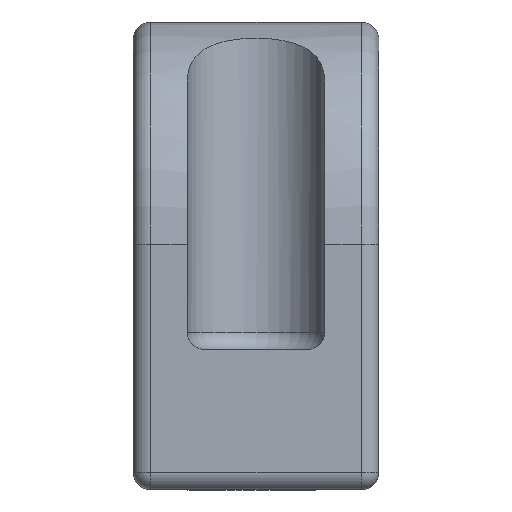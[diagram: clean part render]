
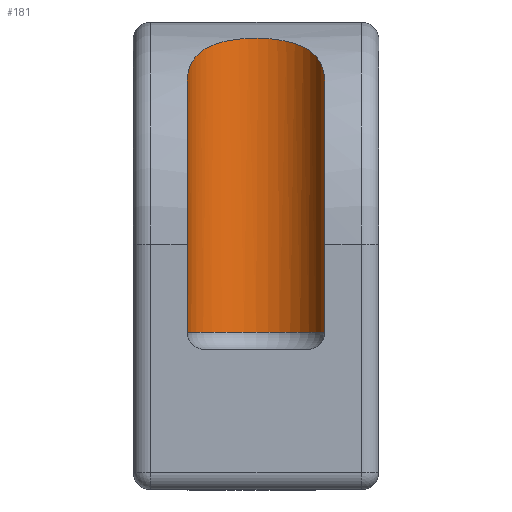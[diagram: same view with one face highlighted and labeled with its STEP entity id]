
A CAD part, left-side view. The second image highlights one B-rep face of the part: STEP entity #181.
In plain terms, the highlighted cylindrical face has radius 11.75 mm (diameter 23.5 mm), a partial arc.
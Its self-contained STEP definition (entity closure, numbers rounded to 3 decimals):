
#105=CARTESIAN_POINT('',(0.,-11.75,69.713));
#106=VERTEX_POINT('',#105);
#114=CARTESIAN_POINT('',(0.,-11.75,27.));
#115=VERTEX_POINT('',#114);
#116=CARTESIAN_POINT('',(0.,-11.75,27.));
#117=DIRECTION('',(0.,0.,1.));
#118=VECTOR('',#117,42.713);
#119=LINE('',#116,#118);
#120=EDGE_CURVE('',#115,#106,#119,.T.);
#139=CARTESIAN_POINT('',(0.,0.,24.));
#140=DIRECTION('',(0.,1.,0.));
#141=DIRECTION('',(0.,0.,1.));
#142=AXIS2_PLACEMENT_3D('',#139,#141,#140);
#143=CYLINDRICAL_SURFACE('',#142,11.75);
#144=CARTESIAN_POINT('',(0.,11.75,69.713));
#145=VERTEX_POINT('',#144);
#146=CARTESIAN_POINT('',(0.,-11.75,69.713));
#147=CARTESIAN_POINT('',(0.98,-11.75,70.632));
#148=CARTESIAN_POINT('',(4.064,-11.383,73.233));
#149=CARTESIAN_POINT('',(7.246,-9.606,75.103));
#150=CARTESIAN_POINT('',(10.496,-5.806,76.738));
#151=CARTESIAN_POINT('',(11.512,-3.463,77.13));
#152=CARTESIAN_POINT('',(11.917,1.633,77.295));
#153=CARTESIAN_POINT('',(11.264,4.173,77.057));
#154=CARTESIAN_POINT('',(8.327,8.816,75.687));
#155=CARTESIAN_POINT('',(5.986,10.42,74.439));
#156=CARTESIAN_POINT('',(2.767,11.452,72.088));
#157=CARTESIAN_POINT('',(1.548,11.694,71.121));
#158=CARTESIAN_POINT('',(0.382,11.75,70.071));
#159=CARTESIAN_POINT('',(0.,11.75,69.713));
#160=B_SPLINE_CURVE_WITH_KNOTS('',3,(#146,#147,#148,#149,#150,#151,#152,#153,#154,#155,#156,#157,#158,#159),.UNSPECIFIED.,.F.,.U.,(4,1,2,2,2,2,1,4),(0.,0.333,1.,1.62,2.249,3.005,3.263,3.392),.UNSPECIFIED.);
#161=EDGE_CURVE('',#106,#145,#160,.T.);
#162=ORIENTED_EDGE('E35',*,*,#161,.T.);
#163=CARTESIAN_POINT('',(0.,11.75,27.));
#164=VERTEX_POINT('',#163);
#165=CARTESIAN_POINT('',(0.,11.75,27.));
#166=DIRECTION('',(0.,0.,1.));
#167=VECTOR('',#166,42.713);
#168=LINE('',#165,#167);
#169=EDGE_CURVE('',#164,#145,#168,.T.);
#170=ORIENTED_EDGE('E31',*,*,#169,.F.);
#171=CARTESIAN_POINT('',(0.,0.,27.));
#172=DIRECTION('',(0.,1.,0.));
#173=DIRECTION('',(0.,0.,-1.));
#174=AXIS2_PLACEMENT_3D('',#171,#173,#172);
#175=CIRCLE('',#174,11.75);
#176=EDGE_CURVE('',#164,#115,#175,.T.);
#177=ORIENTED_EDGE('E48',*,*,#176,.T.);
#178=ORIENTED_EDGE('E48',*,*,#120,.T.);
#179=EDGE_LOOP('',(#162,#170,#177,#178));
#180=FACE_OUTER_BOUND('',#179,.T.);
#181=ADVANCED_FACE('F12',(#180),#143,.F.);
